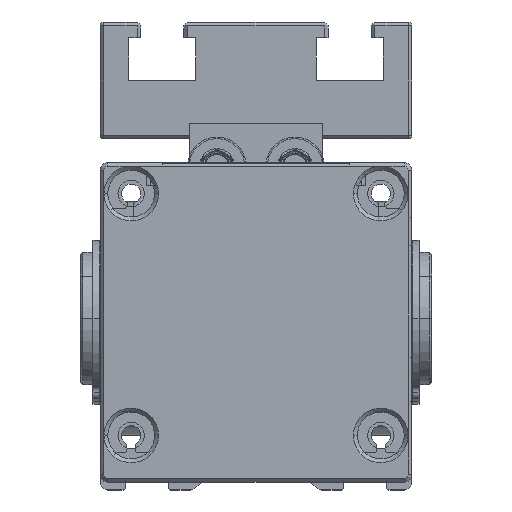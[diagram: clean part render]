
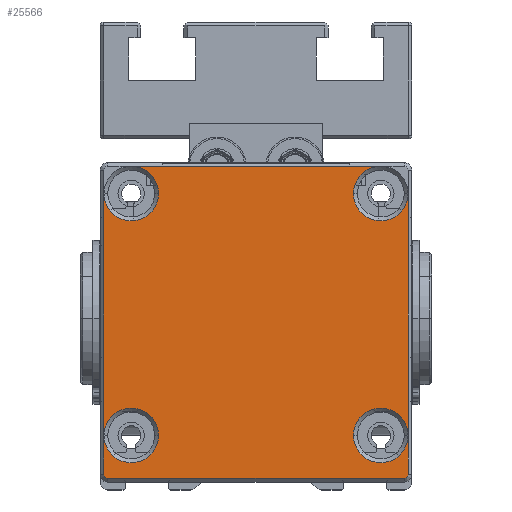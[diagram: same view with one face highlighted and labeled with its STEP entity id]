
A CAD part, front view. The second image highlights one B-rep face of the part: STEP entity #25566.
In plain terms, the highlighted planar face has unit normal (0, -1, 0) as drawn and (0, 0, 1) by its records, which use the part's own axes.
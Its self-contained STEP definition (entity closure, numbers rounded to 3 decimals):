
#575 = CARTESIAN_POINT ( 'NONE',  ( -12.5, 38., 346. ) ) ;
#3440 = EDGE_CURVE ( 'NONE', #23014, #8073, #147991, .T. ) ;
#4405 = VERTEX_POINT ( 'NONE', #83695 ) ;
#7093 = DIRECTION ( 'NONE',  ( 1., 0., 0. ) ) ;
#7180 = CIRCLE ( 'NONE', #57827, 3.5 ) ;
#7725 = CARTESIAN_POINT ( 'NONE',  ( 0., 1., 346. ) ) ;
#8073 = VERTEX_POINT ( 'NONE', #56127 ) ;
#8967 = AXIS2_PLACEMENT_3D ( 'NONE', #115399, #66180, #81330 ) ;
#9483 = DIRECTION ( 'NONE',  ( 1., 0., 0. ) ) ;
#9985 = CARTESIAN_POINT ( 'NONE',  ( 12.5, 38., 346. ) ) ;
#10106 = ORIENTED_EDGE ( 'NONE', *, *, #148095, .T. ) ;
#11799 = DIRECTION ( 'NONE',  ( 1., 0., 0. ) ) ;
#11868 = ORIENTED_EDGE ( 'NONE', *, *, #16610, .F. ) ;
#11943 = VERTEX_POINT ( 'NONE', #148217 ) ;
#11965 = AXIS2_PLACEMENT_3D ( 'NONE', #98275, #97498, #13983 ) ;
#12404 = VECTOR ( 'NONE', #9483, 1000. ) ;
#13680 = VECTOR ( 'NONE', #101603, 1000. ) ;
#13983 = DIRECTION ( 'NONE',  ( 1., 0., 0. ) ) ;
#15704 = ORIENTED_EDGE ( 'NONE', *, *, #137071, .F. ) ;
#15760 = ORIENTED_EDGE ( 'NONE', *, *, #127481, .F. ) ;
#16486 = CIRCLE ( 'NONE', #31663, 0.5 ) ;
#16526 = CIRCLE ( 'NONE', #8967, 3.5 ) ;
#16609 = DIRECTION ( 'NONE',  ( 0., 1., 0. ) ) ;
#16610 = EDGE_CURVE ( 'NONE', #101162, #146625, #16526, .T. ) ;
#17518 = EDGE_CURVE ( 'NONE', #107362, #44217, #83111, .T. ) ;
#20566 = DIRECTION ( 'NONE',  ( 0., 1., 0. ) ) ;
#21145 = DIRECTION ( 'NONE',  ( 1., 0., 0. ) ) ;
#21295 = DIRECTION ( 'NONE',  ( 1., 0., 0. ) ) ;
#22154 = CARTESIAN_POINT ( 'NONE',  ( 0., 1.5, 346. ) ) ;
#23014 = VERTEX_POINT ( 'NONE', #77853 ) ;
#23076 = EDGE_CURVE ( 'NONE', #8073, #49588, #39637, .T. ) ;
#24086 = ORIENTED_EDGE ( 'NONE', *, *, #54244, .F. ) ;
#25566 = ADVANCED_FACE ( 'NONE', ( #137219 ), #150736, .T. ) ;
#26256 = CARTESIAN_POINT ( 'NONE',  ( 19., 2., 346. ) ) ;
#27670 = DIRECTION ( 'NONE',  ( 1., 0., 0. ) ) ;
#29530 = ORIENTED_EDGE ( 'NONE', *, *, #127224, .F. ) ;
#31663 = AXIS2_PLACEMENT_3D ( 'NONE', #92691, #152207, #106146 ) ;
#32596 = ORIENTED_EDGE ( 'NONE', *, *, #38636, .F. ) ;
#33229 = CARTESIAN_POINT ( 'NONE',  ( 16., 7., 346. ) ) ;
#38636 = EDGE_CURVE ( 'NONE', #43283, #8073, #81055, .T. ) ;
#39637 = LINE ( 'NONE', #76279, #112377 ) ;
#40015 = CARTESIAN_POINT ( 'NONE',  ( -19.5, 38., 346. ) ) ;
#40134 = CARTESIAN_POINT ( 'NONE',  ( 19.5, 7., 346. ) ) ;
#41241 = DIRECTION ( 'NONE',  ( -1., 0., 0. ) ) ;
#41950 = AXIS2_PLACEMENT_3D ( 'NONE', #46708, #98407, #11799 ) ;
#41983 = CARTESIAN_POINT ( 'NONE',  ( -16., 41.5, 346. ) ) ;
#43087 = CARTESIAN_POINT ( 'NONE',  ( 19.5, 38., 346. ) ) ;
#43283 = VERTEX_POINT ( 'NONE', #56280 ) ;
#44217 = VERTEX_POINT ( 'NONE', #43087 ) ;
#44321 = DIRECTION ( 'NONE',  ( 0., 0., 1. ) ) ;
#44337 = DIRECTION ( 'NONE',  ( 0., 0., 1. ) ) ;
#46708 = CARTESIAN_POINT ( 'NONE',  ( -16., 7., 346. ) ) ;
#46750 = EDGE_LOOP ( 'NONE', ( #130590, #76874, #125201, #32596, #24086, #124814, #15760, #10106, #114123, #29530, #99634, #15704, #138773, #72035, #11868, #88207 ) ) ;
#48281 = AXIS2_PLACEMENT_3D ( 'NONE', #127824, #44337, #7093 ) ;
#49588 = VERTEX_POINT ( 'NONE', #40015 ) ;
#51259 = DIRECTION ( 'NONE',  ( 0., 0., 1. ) ) ;
#54244 = EDGE_CURVE ( 'NONE', #11943, #43283, #16486, .T. ) ;
#56127 = CARTESIAN_POINT ( 'NONE',  ( -19.5, 7., 346. ) ) ;
#56280 = CARTESIAN_POINT ( 'NONE',  ( -19.5, 2., 346. ) ) ;
#57827 = AXIS2_PLACEMENT_3D ( 'NONE', #33229, #44321, #21295 ) ;
#57837 = EDGE_CURVE ( 'NONE', #64844, #107362, #7180, .T. ) ;
#61432 = AXIS2_PLACEMENT_3D ( 'NONE', #134933, #74592, #27670 ) ;
#62219 = DIRECTION ( 'NONE',  ( 0., 0., 1. ) ) ;
#64844 = VERTEX_POINT ( 'NONE', #86683 ) ;
#66180 = DIRECTION ( 'NONE',  ( 0., 0., 1. ) ) ;
#67832 = DIRECTION ( 'NONE',  ( 1., 0., 0. ) ) ;
#70325 = CARTESIAN_POINT ( 'NONE',  ( 19.5, 22.5, 346. ) ) ;
#72035 = ORIENTED_EDGE ( 'NONE', *, *, #140175, .F. ) ;
#74592 = DIRECTION ( 'NONE',  ( 0., 0., 1. ) ) ;
#75390 = CIRCLE ( 'NONE', #11965, 3.5 ) ;
#76279 = CARTESIAN_POINT ( 'NONE',  ( -19.5, 22.5, 346. ) ) ;
#76874 = ORIENTED_EDGE ( 'NONE', *, *, #3440, .F. ) ;
#77853 = CARTESIAN_POINT ( 'NONE',  ( -12.5, 7., 346. ) ) ;
#81025 = AXIS2_PLACEMENT_3D ( 'NONE', #95692, #62219, #110706 ) ;
#81055 = LINE ( 'NONE', #129406, #123307 ) ;
#81330 = DIRECTION ( 'NONE',  ( 1., 0., 0. ) ) ;
#82717 = CIRCLE ( 'NONE', #41950, 3.5 ) ;
#83111 = LINE ( 'NONE', #70325, #103238 ) ;
#83695 = CARTESIAN_POINT ( 'NONE',  ( 16., 41.5, 346. ) ) ;
#83848 = VERTEX_POINT ( 'NONE', #9985 ) ;
#86683 = CARTESIAN_POINT ( 'NONE',  ( 12.5, 7., 346. ) ) ;
#87348 = EDGE_CURVE ( 'NONE', #11943, #134017, #119092, .T. ) ;
#88207 = ORIENTED_EDGE ( 'NONE', *, *, #143025, .F. ) ;
#90977 = CARTESIAN_POINT ( 'NONE',  ( 19., 1.5, 346. ) ) ;
#92691 = CARTESIAN_POINT ( 'NONE',  ( -19., 2., 346. ) ) ;
#95692 = CARTESIAN_POINT ( 'NONE',  ( 16., 7., 346. ) ) ;
#97498 = DIRECTION ( 'NONE',  ( 0., 0., 1. ) ) ;
#98275 = CARTESIAN_POINT ( 'NONE',  ( -16., 38., 346. ) ) ;
#98407 = DIRECTION ( 'NONE',  ( 0., 0., 1. ) ) ;
#98691 = CIRCLE ( 'NONE', #81025, 3.5 ) ;
#98799 = AXIS2_PLACEMENT_3D ( 'NONE', #26256, #150162, #41241 ) ;
#99634 = ORIENTED_EDGE ( 'NONE', *, *, #17518, .T. ) ;
#101162 = VERTEX_POINT ( 'NONE', #575 ) ;
#101603 = DIRECTION ( 'NONE',  ( 0., 1., 0. ) ) ;
#103238 = VECTOR ( 'NONE', #142582, 1000. ) ;
#103684 = VERTEX_POINT ( 'NONE', #138856 ) ;
#106146 = DIRECTION ( 'NONE',  ( -1., 0., 0. ) ) ;
#107362 = VERTEX_POINT ( 'NONE', #40134 ) ;
#108983 = CIRCLE ( 'NONE', #98799, 0.5 ) ;
#110706 = DIRECTION ( 'NONE',  ( 1., 0., 0. ) ) ;
#112377 = VECTOR ( 'NONE', #16609, 1000. ) ;
#114123 = ORIENTED_EDGE ( 'NONE', *, *, #57837, .F. ) ;
#115399 = CARTESIAN_POINT ( 'NONE',  ( -16., 38., 346. ) ) ;
#118364 = AXIS2_PLACEMENT_3D ( 'NONE', #7725, #143483, #21145 ) ;
#119092 = LINE ( 'NONE', #22154, #12404 ) ;
#123307 = VECTOR ( 'NONE', #20566, 1000. ) ;
#124814 = ORIENTED_EDGE ( 'NONE', *, *, #87348, .T. ) ;
#125201 = ORIENTED_EDGE ( 'NONE', *, *, #154297, .F. ) ;
#125580 = AXIS2_PLACEMENT_3D ( 'NONE', #146698, #51259, #136287 ) ;
#127224 = EDGE_CURVE ( 'NONE', #107362, #64844, #98691, .T. ) ;
#127481 = EDGE_CURVE ( 'NONE', #103684, #134017, #108983, .T. ) ;
#127720 = CARTESIAN_POINT ( 'NONE',  ( 19.5, 4.5, 346. ) ) ;
#127824 = CARTESIAN_POINT ( 'NONE',  ( 16., 38., 346. ) ) ;
#129406 = CARTESIAN_POINT ( 'NONE',  ( -19.5, 4.5, 346. ) ) ;
#129992 = VECTOR ( 'NONE', #67832, 1000. ) ;
#130590 = ORIENTED_EDGE ( 'NONE', *, *, #23076, .F. ) ;
#134017 = VERTEX_POINT ( 'NONE', #90977 ) ;
#134933 = CARTESIAN_POINT ( 'NONE',  ( -16., 7., 346. ) ) ;
#136287 = DIRECTION ( 'NONE',  ( 1., 0., 0. ) ) ;
#136972 = LINE ( 'NONE', #153606, #129992 ) ;
#137071 = EDGE_CURVE ( 'NONE', #83848, #44217, #138242, .T. ) ;
#137096 = CIRCLE ( 'NONE', #48281, 3.5 ) ;
#137219 = FACE_OUTER_BOUND ( 'NONE', #46750, .T. ) ;
#138242 = CIRCLE ( 'NONE', #125580, 3.5 ) ;
#138773 = ORIENTED_EDGE ( 'NONE', *, *, #146687, .F. ) ;
#138856 = CARTESIAN_POINT ( 'NONE',  ( 19.5, 2., 346. ) ) ;
#140175 = EDGE_CURVE ( 'NONE', #146625, #4405, #136972, .T. ) ;
#142582 = DIRECTION ( 'NONE',  ( 0., 1., 0. ) ) ;
#143025 = EDGE_CURVE ( 'NONE', #49588, #101162, #75390, .T. ) ;
#143483 = DIRECTION ( 'NONE',  ( 0., 0., 1. ) ) ;
#146625 = VERTEX_POINT ( 'NONE', #41983 ) ;
#146687 = EDGE_CURVE ( 'NONE', #4405, #83848, #137096, .T. ) ;
#146698 = CARTESIAN_POINT ( 'NONE',  ( 16., 38., 346. ) ) ;
#147991 = CIRCLE ( 'NONE', #61432, 3.5 ) ;
#148095 = EDGE_CURVE ( 'NONE', #103684, #107362, #149253, .T. ) ;
#148217 = CARTESIAN_POINT ( 'NONE',  ( -19., 1.5, 346. ) ) ;
#149253 = LINE ( 'NONE', #127720, #13680 ) ;
#150162 = DIRECTION ( 'NONE',  ( 0., 0., -1. ) ) ;
#150736 = PLANE ( 'NONE',  #118364 ) ;
#152207 = DIRECTION ( 'NONE',  ( 0., 0., -1. ) ) ;
#153606 = CARTESIAN_POINT ( 'NONE',  ( 0., 41.5, 346. ) ) ;
#154297 = EDGE_CURVE ( 'NONE', #8073, #23014, #82717, .T. ) ;
